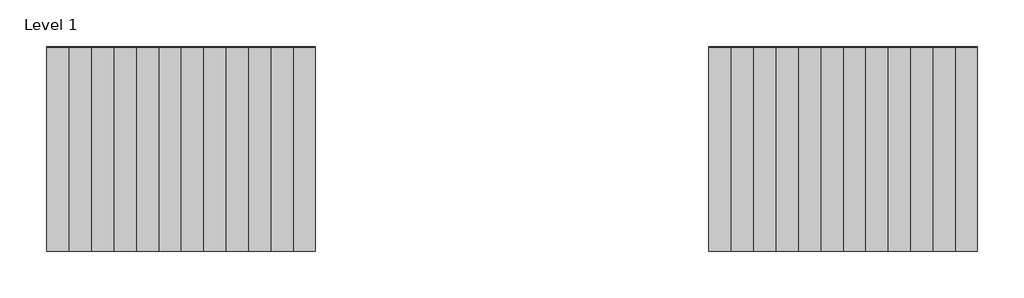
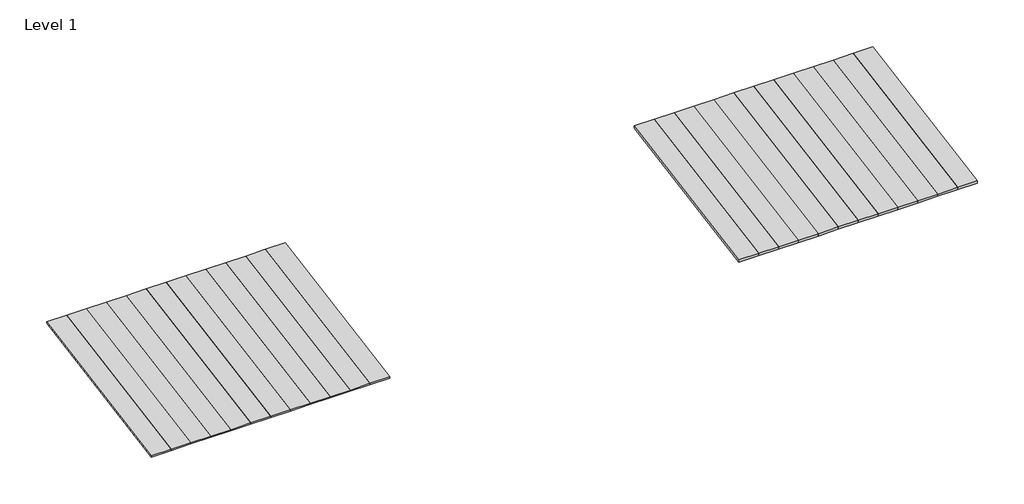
# One storey: 24 plates.
"""IFC4 building model written with IfcOpenShell, lengths in millimetres."""

from ifc_helpers import new_model, si_unit, origin, place, context, project, spatial, transform, mapped, element, save
from components import system_panel_1af4c5d8, system_panel_8508c99d

model = new_model("IFC4")

# Units and contexts
model_context = context("Model", 3, world=origin())
ifc_project = project(units=[si_unit("LENGTHUNIT", "METRE", prefix="MILLI")], contexts=[model_context])

# Site, building, storey
site = spatial("IfcSite", under=ifc_project)
building = spatial("IfcBuilding", under=site)
storey = spatial("IfcBuildingStorey", under=building, Name="Level 1", Elevation=4000.0)

# Plates
placement = place(None, origin())
system_panel_shape = system_panel_1af4c5d8(model_context)
element("IfcPlate", 1, ObjectType="System Panel : SolarSpan 75mm Roof - Plain Surfmist", at=placement, inside=storey, context=model_context, shape_type="MappedRepresentation", body=[
    mapped(system_panel_shape, transform((-13677.3595261, -47532.4948525, 0.0), x_axis=(1.0, 0.0, 0.0), y_axis=(0.0, 0.17364817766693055, -0.9848077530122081), z_axis=(0.0, 0.9848077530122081, 0.17364817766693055))),
])
element("IfcPlate", 2, ObjectType="System Panel : SolarSpan 75mm Roof - Plain Surfmist", at=placement, inside=storey, context=model_context, shape_type="MappedRepresentation", body=[
    mapped(system_panel_shape, transform((-12677.3595261, -47532.4948525, 0.0), x_axis=(1.0, 0.0, 0.0), y_axis=(0.0, 0.17364817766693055, -0.9848077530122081), z_axis=(0.0, 0.9848077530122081, 0.17364817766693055))),
])
element("IfcPlate", 3, ObjectType="System Panel : SolarSpan 75mm Roof - Plain Surfmist", at=placement, inside=storey, context=model_context, shape_type="MappedRepresentation", body=[
    mapped(system_panel_shape, transform((-11677.3595261, -47532.4948525, 0.0), x_axis=(1.0, 0.0, 0.0), y_axis=(0.0, 0.17364817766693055, -0.9848077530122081), z_axis=(0.0, 0.9848077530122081, 0.17364817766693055))),
])
element("IfcPlate", 4, ObjectType="System Panel : SolarSpan 75mm Roof - Plain Surfmist", at=placement, inside=storey, context=model_context, shape_type="MappedRepresentation", body=[
    mapped(system_panel_shape, transform((-10677.3595261, -47532.4948525, 0.0), x_axis=(1.0, 0.0, 0.0), y_axis=(0.0, 0.17364817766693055, -0.9848077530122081), z_axis=(0.0, 0.9848077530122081, 0.17364817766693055))),
])
element("IfcPlate", 5, ObjectType="System Panel : SolarSpan 75mm Roof - Plain Surfmist", at=placement, inside=storey, context=model_context, shape_type="MappedRepresentation", body=[
    mapped(system_panel_shape, transform((-9677.3595261, -47532.4948525, 0.0), x_axis=(1.0, 0.0, 0.0), y_axis=(0.0, 0.17364817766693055, -0.9848077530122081), z_axis=(0.0, 0.9848077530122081, 0.17364817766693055))),
])
element("IfcPlate", 6, ObjectType="System Panel : SolarSpan 75mm Roof - Plain Surfmist", at=placement, inside=storey, context=model_context, shape_type="MappedRepresentation", body=[
    mapped(system_panel_shape, transform((-8677.3595261, -47532.4948525, 0.0), x_axis=(1.0, 0.0, 0.0), y_axis=(0.0, 0.17364817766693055, -0.9848077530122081), z_axis=(0.0, 0.9848077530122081, 0.17364817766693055))),
])
element("IfcPlate", 7, ObjectType="System Panel : SolarSpan 75mm Roof - Plain Surfmist", at=placement, inside=storey, context=model_context, shape_type="MappedRepresentation", body=[
    mapped(system_panel_shape, transform((-7677.3595261, -47532.4948525, 0.0), x_axis=(1.0, 0.0, 0.0), y_axis=(0.0, 0.17364817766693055, -0.9848077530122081), z_axis=(0.0, 0.9848077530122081, 0.17364817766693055))),
])
element("IfcPlate", 8, ObjectType="System Panel : SolarSpan 75mm Roof - Plain Surfmist", at=placement, inside=storey, context=model_context, shape_type="MappedRepresentation", body=[
    mapped(system_panel_shape, transform((-6677.3595261, -47532.4948525, 0.0), x_axis=(1.0, 0.0, 0.0), y_axis=(0.0, 0.17364817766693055, -0.9848077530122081), z_axis=(0.0, 0.9848077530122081, 0.17364817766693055))),
])
element("IfcPlate", 9, ObjectType="System Panel : SolarSpan 75mm Roof - Plain Surfmist", at=placement, inside=storey, context=model_context, shape_type="MappedRepresentation", body=[
    mapped(system_panel_shape, transform((-5677.3595261, -47532.4948525, 0.0), x_axis=(1.0, 0.0, 0.0), y_axis=(0.0, 0.17364817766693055, -0.9848077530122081), z_axis=(0.0, 0.9848077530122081, 0.17364817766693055))),
])
element("IfcPlate", 10, ObjectType="System Panel : SolarSpan 75mm Roof - Plain Surfmist", at=placement, inside=storey, context=model_context, shape_type="MappedRepresentation", body=[
    mapped(system_panel_shape, transform((-4677.3595261, -47532.4948525, 0.0), x_axis=(1.0, 0.0, 0.0), y_axis=(0.0, 0.17364817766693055, -0.9848077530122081), z_axis=(0.0, 0.9848077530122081, 0.17364817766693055))),
])
element("IfcPlate", 11, ObjectType="System Panel : SolarSpan 75mm Roof - Plain Surfmist", at=placement, inside=storey, context=model_context, shape_type="MappedRepresentation", body=[
    mapped(system_panel_shape, transform((-3677.3595261, -47532.4948525, 0.0), x_axis=(1.0, 0.0, 0.0), y_axis=(0.0, 0.17364817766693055, -0.9848077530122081), z_axis=(0.0, 0.9848077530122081, 0.17364817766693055))),
])
element("IfcPlate", 12, ObjectType="System Panel : SolarSpan 75mm Roof - Plain Surfmist", at=placement, inside=storey, context=model_context, shape_type="MappedRepresentation", body=[
    mapped(system_panel_shape, transform((-2677.3595261, -47532.4948525, 0.0), x_axis=(1.0, 0.0, 0.0), y_axis=(0.0, 0.17364817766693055, -0.9848077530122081), z_axis=(0.0, 0.9848077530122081, 0.17364817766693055))),
])
system_panel_2_shape = system_panel_8508c99d(model_context)
element("IfcPlate", 13, ObjectType="System Panel : SolarSpan 150mm Roof - Plain Surfmist", at=placement, inside=storey, context=model_context, shape_type="MappedRepresentation", body=[
    mapped(system_panel_2_shape, transform((15871.7838579, -47515.1300347, 0.0), x_axis=(1.0, 0.0, 0.0), y_axis=(0.0, 0.17364817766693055, -0.9848077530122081), z_axis=(0.0, 0.9848077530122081, 0.17364817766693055))),
])
element("IfcPlate", 14, ObjectType="System Panel : SolarSpan 150mm Roof - Plain Surfmist", at=placement, inside=storey, context=model_context, shape_type="MappedRepresentation", body=[
    mapped(system_panel_2_shape, transform((16871.7838579, -47515.1300347, 0.0), x_axis=(1.0, 0.0, 0.0), y_axis=(0.0, 0.17364817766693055, -0.9848077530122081), z_axis=(0.0, 0.9848077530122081, 0.17364817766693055))),
])
element("IfcPlate", 15, ObjectType="System Panel : SolarSpan 150mm Roof - Plain Surfmist", at=placement, inside=storey, context=model_context, shape_type="MappedRepresentation", body=[
    mapped(system_panel_2_shape, transform((17871.7838579, -47515.1300347, 0.0), x_axis=(1.0, 0.0, 0.0), y_axis=(0.0, 0.17364817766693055, -0.9848077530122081), z_axis=(0.0, 0.9848077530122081, 0.17364817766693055))),
])
element("IfcPlate", 16, ObjectType="System Panel : SolarSpan 150mm Roof - Plain Surfmist", at=placement, inside=storey, context=model_context, shape_type="MappedRepresentation", body=[
    mapped(system_panel_2_shape, transform((18871.7838579, -47515.1300347, 0.0), x_axis=(1.0, 0.0, 0.0), y_axis=(0.0, 0.17364817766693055, -0.9848077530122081), z_axis=(0.0, 0.9848077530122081, 0.17364817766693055))),
])
element("IfcPlate", 17, ObjectType="System Panel : SolarSpan 150mm Roof - Plain Surfmist", at=placement, inside=storey, context=model_context, shape_type="MappedRepresentation", body=[
    mapped(system_panel_2_shape, transform((19871.7838579, -47515.1300347, 0.0), x_axis=(1.0, 0.0, 0.0), y_axis=(0.0, 0.17364817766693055, -0.9848077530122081), z_axis=(0.0, 0.9848077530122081, 0.17364817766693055))),
])
element("IfcPlate", 18, ObjectType="System Panel : SolarSpan 150mm Roof - Plain Surfmist", at=placement, inside=storey, context=model_context, shape_type="MappedRepresentation", body=[
    mapped(system_panel_2_shape, transform((20871.7838579, -47515.1300347, 0.0), x_axis=(1.0, 0.0, 0.0), y_axis=(0.0, 0.17364817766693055, -0.9848077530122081), z_axis=(0.0, 0.9848077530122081, 0.17364817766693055))),
])
element("IfcPlate", 19, ObjectType="System Panel : SolarSpan 150mm Roof - Plain Surfmist", at=placement, inside=storey, context=model_context, shape_type="MappedRepresentation", body=[
    mapped(system_panel_2_shape, transform((21871.7838579, -47515.1300347, 0.0), x_axis=(1.0, 0.0, 0.0), y_axis=(0.0, 0.17364817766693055, -0.9848077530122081), z_axis=(0.0, 0.9848077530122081, 0.17364817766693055))),
])
element("IfcPlate", 20, ObjectType="System Panel : SolarSpan 150mm Roof - Plain Surfmist", at=placement, inside=storey, context=model_context, shape_type="MappedRepresentation", body=[
    mapped(system_panel_2_shape, transform((22871.7838579, -47515.1300347, 0.0), x_axis=(1.0, 0.0, 0.0), y_axis=(0.0, 0.17364817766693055, -0.9848077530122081), z_axis=(0.0, 0.9848077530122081, 0.17364817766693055))),
])
element("IfcPlate", 21, ObjectType="System Panel : SolarSpan 150mm Roof - Plain Surfmist", at=placement, inside=storey, context=model_context, shape_type="MappedRepresentation", body=[
    mapped(system_panel_2_shape, transform((23871.7838579, -47515.1300347, 0.0), x_axis=(1.0, 0.0, 0.0), y_axis=(0.0, 0.17364817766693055, -0.9848077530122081), z_axis=(0.0, 0.9848077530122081, 0.17364817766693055))),
])
element("IfcPlate", 22, ObjectType="System Panel : SolarSpan 150mm Roof - Plain Surfmist", at=placement, inside=storey, context=model_context, shape_type="MappedRepresentation", body=[
    mapped(system_panel_2_shape, transform((24871.7838579, -47515.1300347, 0.0), x_axis=(1.0, 0.0, 0.0), y_axis=(0.0, 0.17364817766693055, -0.9848077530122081), z_axis=(0.0, 0.9848077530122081, 0.17364817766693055))),
])
element("IfcPlate", 23, ObjectType="System Panel : SolarSpan 150mm Roof - Plain Surfmist", at=placement, inside=storey, context=model_context, shape_type="MappedRepresentation", body=[
    mapped(system_panel_2_shape, transform((25871.7838579, -47515.1300347, 0.0), x_axis=(1.0, 0.0, 0.0), y_axis=(0.0, 0.17364817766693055, -0.9848077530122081), z_axis=(0.0, 0.9848077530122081, 0.17364817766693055))),
])
element("IfcPlate", 24, ObjectType="System Panel : SolarSpan 150mm Roof - Plain Surfmist", at=placement, inside=storey, context=model_context, shape_type="MappedRepresentation", body=[
    mapped(system_panel_2_shape, transform((26871.7838579, -47515.1300347, 0.0), x_axis=(1.0, 0.0, 0.0), y_axis=(0.0, 0.17364817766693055, -0.9848077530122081), z_axis=(0.0, 0.9848077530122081, 0.17364817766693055))),
])

save(model, "model.ifc")
